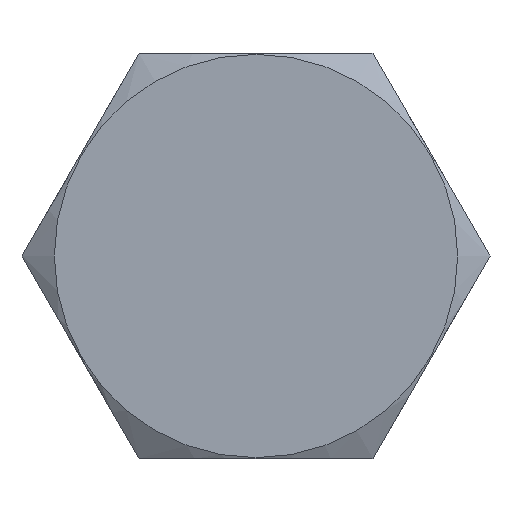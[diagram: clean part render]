
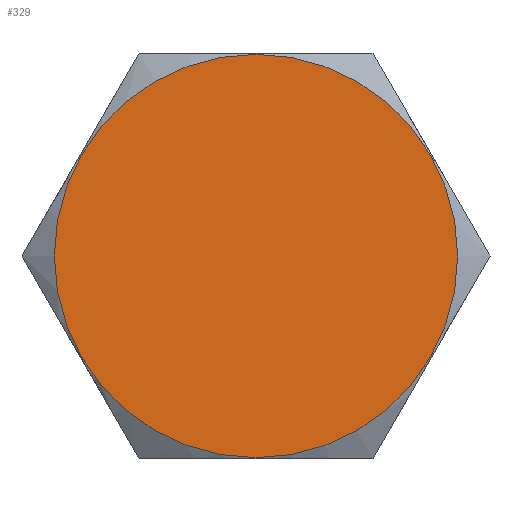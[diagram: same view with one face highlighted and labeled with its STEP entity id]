
A CAD part, front view. The second image highlights one B-rep face of the part: STEP entity #329.
In plain terms, the highlighted planar face has unit normal (0, -1, 0).
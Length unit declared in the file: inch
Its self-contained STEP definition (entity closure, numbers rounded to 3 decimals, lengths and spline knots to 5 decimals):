
#47=PLANE('',#379);
#98=FACE_OUTER_BOUND('',#120,.T.);
#120=EDGE_LOOP('',(#300));
#138=CIRCLE('',#378,0.37313);
#169=VERTEX_POINT('',#623);
#214=EDGE_CURVE('',#169,#169,#138,.T.);
#300=ORIENTED_EDGE('',*,*,#214,.F.);
#329=ADVANCED_FACE('',(#98),#47,.T.);
#378=AXIS2_PLACEMENT_3D('',#624,#462,#463);
#379=AXIS2_PLACEMENT_3D('',#626,#465,#466);
#462=DIRECTION('center_axis',(0.,1.,0.));
#463=DIRECTION('ref_axis',(0.,0.,1.));
#465=DIRECTION('center_axis',(0.,-1.,0.));
#466=DIRECTION('ref_axis',(0.,0.,-1.));
#623=CARTESIAN_POINT('',(0.,0.,-0.37313));
#624=CARTESIAN_POINT('Origin',(0.,0.,0.));
#626=CARTESIAN_POINT('Origin',(0.,0.,0.));
